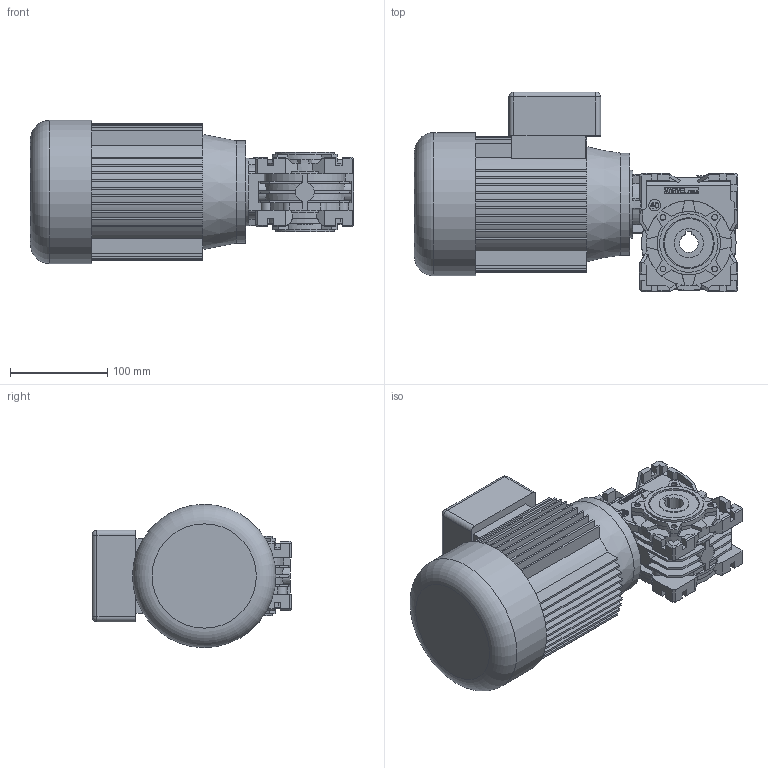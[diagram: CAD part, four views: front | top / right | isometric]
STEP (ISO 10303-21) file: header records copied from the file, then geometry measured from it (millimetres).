
FILE_DESCRIPTION( ( 'Unknown' ), '1' );
FILE_NAME( 'E:/services/configuratordownloads/customers/VARVEL/RT/download/1BC94295E15BDE1D80EFD53EB89D8D92/STEP/1BC94295E15BDE1D80EFD53EB89D8D92.3d.stp', 'Unknown', ( 'Unknown' ), ( 'Unknown' ), 'PSStep 10.1', 'Unknown', ' ' );
FILE_SCHEMA( ( 'AUTOMOTIVE_DESIGN { 1 0 10303 214 1 1 1 1 }' ) );
Length unit declared in the file: millimetre
Products named in the file (1): 531101
Bounding box: 331.5 x 205 x 147 mm (x, y, z)
Volume: 3830791.3 mm3; surface area: 366733.9 mm2
Topology: 1 solids, 5 shells, 1083 faces, 2968 edges, 1960 vertices
Faces by surface type: plane 839, cylinder 203, cone 35, sphere 4, torus 2
Full cylindrical faces by diameter (mm): 5 x8, 5.25 x4, 5.6 x4, 6 x4, 7 x4, 12 x1, 14 x1, 17 x1, 18 x1, 20 x2, 30 x2, 36 x1, 42 x2, 50.1 x4, 51 x1, 52 x3, 55 x2, 55.4 x1, 59 x1, 60 x2, 69 x1, 70 x2, 75 x1, 105 x1, 147 x1
Entity records: 42438 total; most frequent: CARTESIAN_POINT 6382, ORIENTED_EDGE 5728, DIRECTION 5479, EDGE_CURVE 2864, LINE 2247, VECTOR 2247, VERTEX_POINT 1932, AXIS2_PLACEMENT_3D 1616
